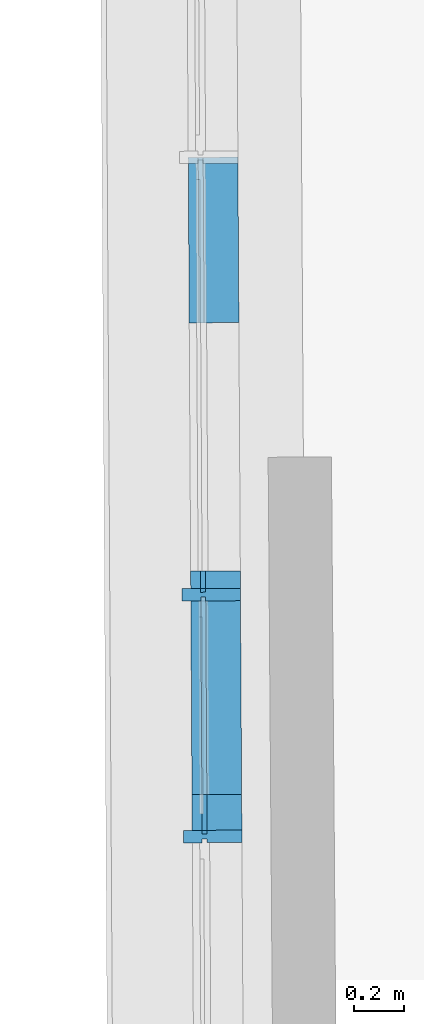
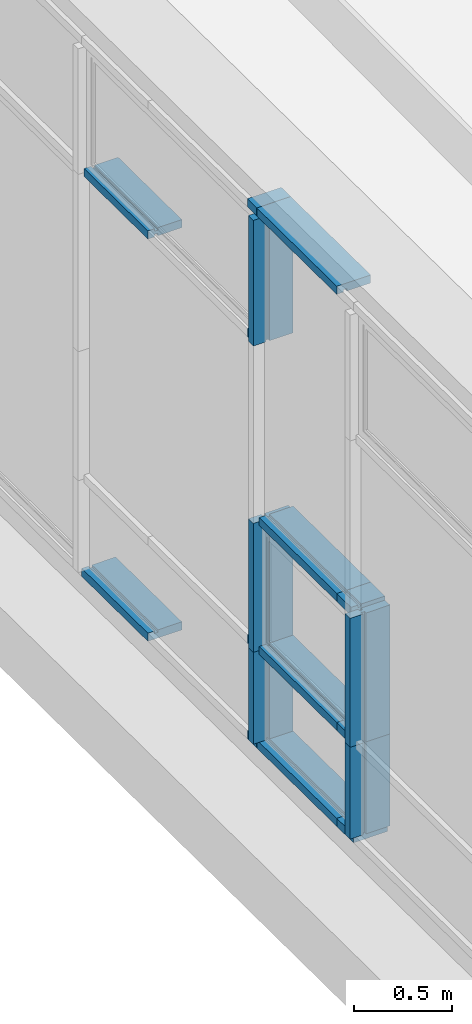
# One storey, part 117 of 158: 18 building element parts, 1 element without a shape of its own.
"""IFC2X3 building model written with IfcOpenShell, lengths in metres."""

from ifc_helpers import new_model, entity, si_unit, converted_unit, derived_unit, money_unit, direction, frame, origin_with_axes, place, context, subcontext, project, spatial, faceted_brep, material, type_object, element, aggregate, save


model = new_model("IFC2X3")

# Units and contexts
model_context = context("Model", 3, precision=1e-05, world=origin_with_axes(), true_north=direction((0.0, 1.0)))
body_context = subcontext(model_context, "Body", "Model", "MODEL_VIEW")
ifc_project = project(units=[si_unit("LENGTHUNIT", "METRE"), si_unit("AREAUNIT", "SQUARE_METRE"), si_unit("VOLUMEUNIT", "CUBIC_METRE"), converted_unit("PLANEANGLEUNIT", "DEGREE", entity("IfcPlaneAngleMeasure", 0.0174532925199), si_unit("PLANEANGLEUNIT", "RADIAN"), dimensions=[0, 0, 0, 0, 0, 0, 0]), money_unit("EUR"), converted_unit("TIMEUNIT", "Year", entity("IfcTimeMeasure", 31556926.0), si_unit("TIMEUNIT", "SECOND"), dimensions=[0, 0, 1, 0, 0, 0, 0]), si_unit("MASSUNIT", "GRAM", prefix="KILO"), si_unit("THERMODYNAMICTEMPERATUREUNIT", "DEGREE_CELSIUS"), si_unit("LUMINOUSINTENSITYUNIT", "LUMEN"), si_unit("ENERGYUNIT", "JOULE", prefix="MEGA"), derived_unit("THERMALCONDUCTANCEUNIT", [(si_unit("POWERUNIT", "WATT"), 1), (si_unit("LENGTHUNIT", "METRE"), -1), (si_unit("THERMODYNAMICTEMPERATUREUNIT", "KELVIN"), -1)]), derived_unit("SPECIFICHEATCAPACITYUNIT", [(si_unit("ENERGYUNIT", "JOULE"), 1), (si_unit("MASSUNIT", "GRAM", prefix="KILO"), -1), (si_unit("THERMODYNAMICTEMPERATUREUNIT", "KELVIN"), -1)]), derived_unit("MASSDENSITYUNIT", [(si_unit("MASSUNIT", "GRAM", prefix="KILO"), 1), (si_unit("VOLUMEUNIT", "CUBIC_METRE"), -1)])], contexts=[model_context])

# Site, building, storey
site_placement = place(None, origin_with_axes())
site = spatial("IfcSite", under=ifc_project, at=site_placement, Name="Gelände", CompositionType="ELEMENT")
building_placement = place(site_placement, origin_with_axes())
building = spatial("IfcBuilding", under=site, at=building_placement, Name="Gebäude", CompositionType="ELEMENT")
storey_placement = place(building_placement, origin_with_axes())
storey = spatial("IfcBuildingStorey", under=building, at=storey_placement, Name="ERDGESCHOSS", CompositionType="ELEMENT", Elevation=0.0)

# Proxy, building element parts
building_element_proxy_type = type_object("IfcBuildingElementProxyType", Name="Fassadentyp", PredefinedType="NOTDEFINED")
proxy_placement = place(storey_placement, frame((-34.8120286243, 34.4012060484, 1.3404389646), z_axis=(0.0, 0.0, 1.0), x_axis=(1.0, 0.0, 0.0)))
proxy = element("IfcBuildingElementProxy", 1, at=proxy_placement, inside=storey, type_object=building_element_proxy_type, Name="Fassade-002")
ifc_material = material(Name="53_Metall, Aluminium")
building_element_part_1_placement = place(proxy_placement, origin_with_axes())
building_element_part_1 = element("IfcBuildingElementPart", 2, at=building_element_part_1_placement, material=ifc_material, Name="53_Metall, Aluminium", context=body_context, shape_type="Brep", body=[
    faceted_brep([(0.000255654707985, 1.66152020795, 2.5100000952), (0.000255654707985, 1.66152020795, 2.4950000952), (0.140253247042, 1.66234126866, 2.4950000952), (0.140253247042, 1.66234126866, 2.5450000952), (0.000255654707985, 1.66152020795, 2.5450000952), (0.000255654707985, 1.66152020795, 2.5300000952), (-0.0197440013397, 1.66140291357, 2.5300000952), (-0.0197440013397, 1.66140291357, 2.5450000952), (-0.0597433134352, 1.66116832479, 2.5450000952), (-0.0597433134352, 1.66116832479, 2.4950000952), (-0.0197440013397, 1.66140291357, 2.4950000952), (-0.0197440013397, 1.66140291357, 2.5100000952), (-0.00350551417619, 2.30283038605, 2.5100000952), (-0.00350551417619, 2.30283038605, 2.4950000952), (0.136492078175, 2.30365144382, 2.4950000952), (0.136492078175, 2.30365144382, 2.5450000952), (-0.00350551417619, 2.30283038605, 2.5450000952), (-0.00350551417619, 2.30283038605, 2.5300000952), (-0.0235051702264, 2.30271309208, 2.5300000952), (-0.0235051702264, 2.30271309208, 2.5450000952), (-0.0635044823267, 2.30247850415, 2.5450000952), (-0.0635044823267, 2.30247850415, 2.4950000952), (-0.0235051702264, 2.30271309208, 2.4950000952), (-0.0235051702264, 2.30271309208, 2.5100000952)], [[[0, 1, 2, 3, 4, 5, 6, 7, 8, 9, 10, 11]], [[1, 0, 12, 13]], [[1, 13, 14, 2]], [[2, 14, 15, 3]], [[4, 3, 15, 16]], [[4, 16, 17, 5]], [[5, 17, 18, 6]], [[7, 6, 18, 19]], [[19, 20, 8, 7]], [[8, 20, 21, 9]], [[22, 10, 9, 21]], [[11, 10, 22, 23]], [[0, 11, 23, 12]], [[23, 22, 21, 20, 19, 18, 17, 16, 15, 14, 13, 12]]]),
])
building_element_part_2_placement = place(proxy_placement, origin_with_axes())
building_element_part_2 = element("IfcBuildingElementPart", 3, at=building_element_part_2_placement, material=ifc_material, Name="53_Metall, Aluminium", context=body_context, shape_type="Brep", body=[
    faceted_brep([(0.00653149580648, 0.591437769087, 0.610000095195), (0.00653149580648, 0.591437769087, 0.595000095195), (0.146529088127, 0.592258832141, 0.595000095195), (0.146529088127, 0.592258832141, 0.645000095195), (0.00653149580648, 0.591437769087, 0.645000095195), (0.00653149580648, 0.591437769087, 0.630000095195), (-0.0134681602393, 0.591320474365, 0.630000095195), (-0.0134681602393, 0.591320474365, 0.645000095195), (-0.0534674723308, 0.591085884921, 0.645000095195), (-0.0534674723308, 0.591085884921, 0.595000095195), (-0.0134681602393, 0.591320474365, 0.595000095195), (-0.0134681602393, 0.591320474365, 0.610000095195), (0.00612037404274, 0.661537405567, 0.610000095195), (0.00612037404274, 0.661537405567, 0.595000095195), (0.146117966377, 0.662358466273, 0.595000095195), (0.146117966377, 0.662358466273, 0.645000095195), (0.00612037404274, 0.661537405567, 0.645000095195), (0.00612037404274, 0.661537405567, 0.630000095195), (-0.013879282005, 0.66142011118, 0.630000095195), (-0.013879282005, 0.66142011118, 0.645000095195), (-0.0538785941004, 0.661185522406, 0.645000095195), (-0.0538785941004, 0.661185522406, 0.595000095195), (-0.013879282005, 0.66142011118, 0.595000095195), (-0.013879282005, 0.66142011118, 0.610000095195)], [[[0, 1, 2, 3, 4, 5, 6, 7, 8, 9, 10, 11]], [[1, 0, 12, 13]], [[1, 13, 14, 2]], [[3, 2, 14, 15]], [[4, 3, 15, 16]], [[4, 16, 17, 5]], [[5, 17, 18, 6]], [[7, 6, 18, 19]], [[19, 20, 8, 7]], [[9, 8, 20, 21]], [[22, 10, 9, 21]], [[11, 10, 22, 23]], [[0, 11, 23, 12]], [[23, 22, 21, 20, 19, 18, 17, 16, 15, 14, 13, 12]]]),
])
building_element_part_3_placement = place(proxy_placement, origin_with_axes())
building_element_part_3 = element("IfcBuildingElementPart", 4, at=building_element_part_3_placement, material=ifc_material, Name="53_Metall, Aluminium", context=body_context, shape_type="Brep", body=[
    faceted_brep([(0.00673676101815, 0.556438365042, 0.620000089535), (0.00682473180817, 0.541438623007, 0.620000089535), (0.146822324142, 0.542259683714, 0.620000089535), (0.146529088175, 0.592258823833, 0.620000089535), (0.00653149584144, 0.591437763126, 0.620000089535), (0.00661946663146, 0.57643802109, 0.620000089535), (-0.0133801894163, 0.576320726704, 0.620000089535), (-0.0134681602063, 0.591320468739, 0.620000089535), (-0.0884668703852, 0.590880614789, 0.620000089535), (-0.0881736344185, 0.54088147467, 0.620000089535), (-0.0131749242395, 0.54132132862, 0.620000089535), (-0.0132628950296, 0.556321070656, 0.620000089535), (0.00673676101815, 0.556438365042, 0.0500000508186), (0.00682473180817, 0.541438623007, 0.0500000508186), (0.146822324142, 0.542259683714, 0.0500000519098), (0.146529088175, 0.592258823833, 0.0500000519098), (0.00653149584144, 0.591437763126, 0.0500000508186), (0.00661946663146, 0.57643802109, 0.0500000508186), (-0.0133801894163, 0.576320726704, 0.0500000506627), (-0.0134681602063, 0.591320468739, 0.0500000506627), (-0.0884668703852, 0.590880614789, 0.0500000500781), (-0.0881736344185, 0.54088147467, 0.0500000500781), (-0.0131749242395, 0.54132132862, 0.0500000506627), (-0.0132628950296, 0.556321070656, 0.0500000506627)], [[[0, 1, 2, 3, 4, 5, 6, 7, 8, 9, 10, 11]], [[1, 0, 12, 13]], [[1, 13, 14, 2]], [[2, 14, 15, 3]], [[4, 3, 15, 16]], [[4, 16, 17, 5]], [[5, 17, 18, 6]], [[7, 6, 18, 19]], [[19, 20, 8, 7]], [[8, 20, 21, 9]], [[22, 10, 9, 21]], [[11, 10, 22, 23]], [[0, 11, 23, 12]], [[23, 22, 21, 20, 19, 18, 17, 16, 15, 14, 13, 12]]]),
])
building_element_part_4_placement = place(proxy_placement, origin_with_axes())
building_element_part_4 = element("IfcBuildingElementPart", 5, at=building_element_part_4_placement, material=ifc_material, Name="53_Metall, Aluminium", context=body_context, shape_type="Brep", body=[
    faceted_brep([(0.000255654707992, 1.66152020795, 0.0350000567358), (-0.0197440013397, 1.66140291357, 0.0350000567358), (-0.0197440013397, 1.66140291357, 0.0500000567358), (-0.0597433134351, 1.66116832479, 0.0500000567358), (-0.0597433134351, 1.66116832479, 5.6735754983e-08), (0.140253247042, 1.66234126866, 5.6735754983e-08), (0.140253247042, 1.66234126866, 0.0500000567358), (0.000255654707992, 1.66152020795, 0.0500000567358), (-0.00365213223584, 2.32782996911, 0.0350000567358), (-0.0236517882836, 2.32771267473, 0.0350000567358), (-0.0236517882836, 2.32771267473, 0.0500000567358), (-0.063651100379, 2.32747808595, 0.0500000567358), (-0.063651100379, 2.32747808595, 5.6735754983e-08), (0.136345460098, 2.32865102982, 5.6735754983e-08), (0.136345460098, 2.32865102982, 0.0500000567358), (-0.00365213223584, 2.32782996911, 0.0500000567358)], [[[0, 1, 2, 3, 4, 5, 6, 7]], [[1, 0, 8, 9]], [[10, 2, 1, 9]], [[2, 10, 11, 3]], [[12, 4, 3, 11]], [[13, 5, 4, 12]], [[14, 6, 5, 13]], [[15, 7, 6, 14]], [[0, 7, 15, 8]], [[8, 15, 14, 13, 12, 11, 10, 9]]]),
])
building_element_part_5_placement = place(proxy_placement, origin_with_axes())
building_element_part_5 = element("IfcBuildingElementPart", 6, at=building_element_part_5_placement, material=ifc_material, Name="53_Metall, Aluminium", context=body_context, shape_type="Brep", body=[
    faceted_brep([(0.0066781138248, 0.566438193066, 0.0350000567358), (-0.0133215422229, 0.56632089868, 0.0350000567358), (-0.0133215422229, 0.56632089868, 0.0500000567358), (-0.0533208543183, 0.566086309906, 0.0500000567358), (-0.0533208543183, 0.566086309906, 5.6735754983e-08), (0.146675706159, 0.567259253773, 5.6735754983e-08), (0.146675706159, 0.567259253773, 0.0500000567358), (0.0066781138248, 0.566438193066, 0.0500000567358), (0.0061203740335, 0.661537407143, 0.0350000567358), (-0.0138792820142, 0.661420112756, 0.0350000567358), (-0.0138792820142, 0.661420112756, 0.0500000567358), (-0.0538785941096, 0.661185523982, 0.0500000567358), (-0.0538785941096, 0.661185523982, 5.6735754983e-08), (0.146117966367, 0.662358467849, 5.6735754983e-08), (0.146117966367, 0.662358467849, 0.0500000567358), (0.0061203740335, 0.661537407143, 0.0500000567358)], [[[0, 1, 2, 3, 4, 5, 6, 7]], [[1, 0, 8, 9]], [[10, 2, 1, 9]], [[2, 10, 11, 3]], [[12, 4, 3, 11]], [[13, 5, 4, 12]], [[14, 6, 5, 13]], [[15, 7, 6, 14]], [[0, 7, 15, 8]], [[8, 15, 14, 13, 12, 11, 10, 9]]]),
])
building_element_part_6_placement = place(proxy_placement, origin_with_axes())
building_element_part_6 = element("IfcBuildingElementPart", 7, at=building_element_part_6_placement, material=ifc_material, Name="53_Metall, Aluminium", context=body_context, shape_type="Brep", body=[
    faceted_brep([(0.00653149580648, 0.591437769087, 2.5100000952), (0.00653149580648, 0.591437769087, 2.4950000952), (0.146529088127, 0.592258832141, 2.4950000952), (0.146529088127, 0.592258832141, 2.5450000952), (0.00653149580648, 0.591437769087, 2.5450000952), (0.00653149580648, 0.591437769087, 2.5300000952), (-0.0134681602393, 0.591320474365, 2.5300000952), (-0.0134681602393, 0.591320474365, 2.5450000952), (-0.0534674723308, 0.591085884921, 2.5450000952), (-0.0534674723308, 0.591085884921, 2.4950000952), (-0.0134681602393, 0.591320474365, 2.4950000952), (-0.0134681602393, 0.591320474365, 2.5100000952), (0.00612037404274, 0.661537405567, 2.5100000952), (0.00612037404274, 0.661537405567, 2.4950000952), (0.146117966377, 0.662358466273, 2.4950000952), (0.146117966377, 0.662358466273, 2.5450000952), (0.00612037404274, 0.661537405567, 2.5450000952), (0.00612037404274, 0.661537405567, 2.5300000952), (-0.013879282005, 0.66142011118, 2.5300000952), (-0.013879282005, 0.66142011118, 2.5450000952), (-0.0538785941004, 0.661185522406, 2.5450000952), (-0.0538785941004, 0.661185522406, 2.4950000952), (-0.013879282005, 0.66142011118, 2.4950000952), (-0.013879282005, 0.66142011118, 2.5100000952)], [[[0, 1, 2, 3, 4, 5, 6, 7, 8, 9, 10, 11]], [[1, 0, 12, 13]], [[1, 13, 14, 2]], [[3, 2, 14, 15]], [[4, 3, 15, 16]], [[4, 16, 17, 5]], [[5, 17, 18, 6]], [[7, 6, 18, 19]], [[19, 20, 8, 7]], [[9, 8, 20, 21]], [[22, 10, 9, 21]], [[11, 10, 22, 23]], [[0, 11, 23, 12]], [[23, 22, 21, 20, 19, 18, 17, 16, 15, 14, 13, 12]]]),
])
building_element_part_7_placement = place(proxy_placement, origin_with_axes())
building_element_part_7 = element("IfcBuildingElementPart", 8, at=building_element_part_7_placement, material=ifc_material, Name="53_Metall, Aluminium", context=body_context, shape_type="Brep", body=[
    faceted_brep([(0.00673676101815, 0.556438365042, 3.29999996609), (0.00682473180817, 0.541438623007, 3.29999996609), (0.146822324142, 0.542259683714, 3.29999996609), (0.146529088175, 0.592258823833, 3.29999996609), (0.00653149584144, 0.591437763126, 3.29999996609), (0.00661946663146, 0.57643802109, 3.29999996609), (-0.0133801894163, 0.576320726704, 3.29999996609), (-0.0134681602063, 0.591320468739, 3.29999996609), (-0.0884668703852, 0.590880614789, 3.29999996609), (-0.0881736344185, 0.54088147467, 3.29999996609), (-0.0131749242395, 0.54132132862, 3.29999996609), (-0.0132628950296, 0.556321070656, 3.29999996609), (0.00673676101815, 0.556438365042, 2.52000009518), (0.00682473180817, 0.541438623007, 2.52000009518), (0.146822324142, 0.542259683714, 2.52000009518), (0.146529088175, 0.592258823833, 2.52000009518), (0.00653149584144, 0.591437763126, 2.52000009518), (0.00661946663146, 0.57643802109, 2.52000009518), (-0.0133801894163, 0.576320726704, 2.52000009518), (-0.0134681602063, 0.591320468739, 2.52000009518), (-0.0884668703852, 0.590880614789, 2.52000009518), (-0.0881736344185, 0.54088147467, 2.52000009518), (-0.0131749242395, 0.54132132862, 2.52000009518), (-0.0132628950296, 0.556321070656, 2.52000009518)], [[[0, 1, 2, 3, 4, 5, 6, 7, 8, 9, 10, 11]], [[1, 0, 12, 13]], [[1, 13, 14, 2]], [[3, 2, 14, 15]], [[4, 3, 15, 16]], [[4, 16, 17, 5]], [[5, 17, 18, 6]], [[7, 6, 18, 19]], [[19, 20, 8, 7]], [[9, 8, 20, 21]], [[22, 10, 9, 21]], [[11, 10, 22, 23]], [[0, 11, 23, 12]], [[23, 22, 21, 20, 19, 18, 17, 16, 15, 14, 13, 12]]]),
])
building_element_part_8_placement = place(proxy_placement, origin_with_axes())
building_element_part_8 = element("IfcBuildingElementPart", 9, at=building_element_part_8_placement, material=ifc_material, Name="53_Metall, Aluminium", context=body_context, shape_type="Brep", body=[
    faceted_brep([(0.0066781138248, 0.566438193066, 3.31499999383), (0.0066781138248, 0.566438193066, 3.29999999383), (0.146675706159, 0.567259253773, 3.29999999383), (0.146675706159, 0.567259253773, 3.34999999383), (-0.0533208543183, 0.566086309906, 3.34999999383), (-0.0533208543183, 0.566086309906, 3.29999999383), (-0.0133215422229, 0.56632089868, 3.29999999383), (-0.0133215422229, 0.56632089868, 3.31499999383), (0.00612037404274, 0.661537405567, 3.31499999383), (0.00612037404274, 0.661537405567, 3.29999999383), (0.146117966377, 0.662358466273, 3.29999999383), (0.146117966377, 0.662358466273, 3.34999999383), (-0.0538785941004, 0.661185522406, 3.34999999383), (-0.0538785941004, 0.661185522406, 3.29999999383), (-0.013879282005, 0.66142011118, 3.29999999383), (-0.013879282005, 0.66142011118, 3.31499999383)], [[[0, 1, 2, 3, 4, 5, 6, 7]], [[0, 8, 9, 1]], [[9, 10, 2, 1]], [[10, 11, 3, 2]], [[11, 12, 4, 3]], [[12, 13, 5, 4]], [[6, 5, 13, 14]], [[14, 15, 7, 6]], [[7, 15, 8, 0]], [[8, 15, 14, 13, 12, 11, 10, 9]]]),
])
building_element_part_9_placement = place(proxy_placement, origin_with_axes())
building_element_part_9 = element("IfcBuildingElementPart", 10, at=building_element_part_9_placement, material=ifc_material, Name="53_Metall, Aluminium", context=body_context, shape_type="Brep", body=[
    faceted_brep([(0.0122423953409, -0.382317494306, 1.4100000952), (0.0122423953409, -0.382317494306, 1.3950000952), (0.152239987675, -0.381496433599, 1.3950000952), (0.152239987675, -0.381496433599, 1.4450000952), (0.0122423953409, -0.382317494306, 1.4450000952), (0.0122423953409, -0.382317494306, 1.4300000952), (-0.00775726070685, -0.382434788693, 1.4300000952), (-0.00775726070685, -0.382434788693, 1.4450000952), (-0.0477565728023, -0.382669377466, 1.4450000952), (-0.0477565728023, -0.382669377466, 1.3950000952), (-0.00775726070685, -0.382434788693, 1.3950000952), (-0.00775726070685, -0.382434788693, 1.4100000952), (0.011398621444, -0.238447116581, 1.4100000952), (0.011398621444, -0.238447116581, 1.3950000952), (0.151396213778, -0.237626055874, 1.3950000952), (0.151396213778, -0.237626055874, 1.4450000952), (0.011398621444, -0.238447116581, 1.4450000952), (0.011398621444, -0.238447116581, 1.4300000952), (-0.0086010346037, -0.238564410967, 1.4300000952), (-0.0086010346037, -0.238564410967, 1.4450000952), (-0.0486003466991, -0.238798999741, 1.4450000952), (-0.0486003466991, -0.238798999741, 1.3950000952), (-0.0086010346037, -0.238564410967, 1.3950000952), (-0.0086010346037, -0.238564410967, 1.4100000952)], [[[0, 1, 2, 3, 4, 5, 6, 7, 8, 9, 10, 11]], [[1, 0, 12, 13]], [[1, 13, 14, 2]], [[3, 2, 14, 15]], [[4, 3, 15, 16]], [[4, 16, 17, 5]], [[5, 17, 18, 6]], [[7, 6, 18, 19]], [[19, 20, 8, 7]], [[9, 8, 20, 21]], [[22, 10, 9, 21]], [[11, 10, 22, 23]], [[0, 11, 23, 12]], [[23, 22, 21, 20, 19, 18, 17, 16, 15, 14, 13, 12]]]),
])
building_element_part_10_placement = place(proxy_placement, origin_with_axes())
building_element_part_10 = element("IfcBuildingElementPart", 11, at=building_element_part_10_placement, material=ifc_material, Name="53_Metall, Aluminium", context=body_context, shape_type="Brep", body=[
    faceted_brep([(0.011398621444, -0.238447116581, 3.31499999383), (0.011398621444, -0.238447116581, 3.29999999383), (0.151396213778, -0.237626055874, 3.29999999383), (0.151396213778, -0.237626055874, 3.34999999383), (-0.0486003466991, -0.238798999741, 3.34999999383), (-0.0486003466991, -0.238798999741, 3.29999999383), (-0.00860103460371, -0.238564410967, 3.29999999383), (-0.00860103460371, -0.238564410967, 3.31499999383), (0.0066781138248, 0.566438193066, 3.31499999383), (0.0066781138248, 0.566438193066, 3.29999999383), (0.146675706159, 0.567259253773, 3.29999999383), (0.146675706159, 0.567259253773, 3.34999999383), (-0.0533208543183, 0.566086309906, 3.34999999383), (-0.0533208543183, 0.566086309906, 3.29999999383), (-0.0133215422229, 0.56632089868, 3.29999999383), (-0.0133215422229, 0.56632089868, 3.31499999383)], [[[0, 1, 2, 3, 4, 5, 6, 7]], [[0, 8, 9, 1]], [[9, 10, 2, 1]], [[10, 11, 3, 2]], [[11, 12, 4, 3]], [[12, 13, 5, 4]], [[6, 5, 13, 14]], [[14, 15, 7, 6]], [[7, 15, 8, 0]], [[8, 15, 14, 13, 12, 11, 10, 9]]]),
])
building_element_part_11_placement = place(proxy_placement, origin_with_axes())
building_element_part_11 = element("IfcBuildingElementPart", 12, at=building_element_part_11_placement, material=ifc_material, Name="53_Metall, Aluminium", context=body_context, shape_type="Brep", body=[
    faceted_brep([(0.00673676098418, 0.556438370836, 1.42000009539), (0.0068247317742, 0.5414386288, 1.42000009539), (0.146822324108, 0.542259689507, 1.42000009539), (0.146529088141, 0.592258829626, 1.42000009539), (0.00653149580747, 0.591437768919, 1.42000009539), (0.00661946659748, 0.576438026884, 1.42000009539), (-0.0133801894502, 0.576320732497, 1.42000009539), (-0.0134681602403, 0.591320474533, 1.42000009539), (-0.0884668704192, 0.590880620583, 1.42000009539), (-0.0881736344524, 0.540881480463, 1.42000009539), (-0.0131749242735, 0.541321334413, 1.42000009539), (-0.0132628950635, 0.556321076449, 1.42000009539), (0.00673676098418, 0.556438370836, 0.620000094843), (0.0068247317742, 0.5414386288, 0.620000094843), (0.146822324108, 0.542259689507, 0.620000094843), (0.146529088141, 0.592258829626, 0.620000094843), (0.00653149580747, 0.591437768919, 0.620000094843), (0.00661946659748, 0.576438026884, 0.620000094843), (-0.0133801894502, 0.576320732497, 0.620000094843), (-0.0134681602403, 0.591320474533, 0.620000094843), (-0.0884668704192, 0.590880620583, 0.620000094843), (-0.0881736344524, 0.540881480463, 0.620000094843), (-0.0131749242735, 0.541321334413, 0.620000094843), (-0.0132628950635, 0.556321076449, 0.620000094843)], [[[0, 1, 2, 3, 4, 5, 6, 7, 8, 9, 10, 11]], [[1, 0, 12, 13]], [[1, 13, 14, 2]], [[3, 2, 14, 15]], [[4, 3, 15, 16]], [[4, 16, 17, 5]], [[5, 17, 18, 6]], [[7, 6, 18, 19]], [[19, 20, 8, 7]], [[9, 8, 20, 21]], [[22, 10, 9, 21]], [[11, 10, 22, 23]], [[0, 11, 23, 12]], [[23, 22, 21, 20, 19, 18, 17, 16, 15, 14, 13, 12]]]),
])
building_element_part_12_placement = place(proxy_placement, origin_with_axes())
building_element_part_12 = element("IfcBuildingElementPart", 13, at=building_element_part_12_placement, material=ifc_material, Name="53_Metall, Aluminium", context=body_context, shape_type="Brep", body=[
    faceted_brep([(0.0123890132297, -0.407317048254, 0.035), (-0.00761064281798, -0.407434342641, 0.035), (-0.00761064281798, -0.407434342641, 0.05), (-0.0476099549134, -0.407668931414, 0.05), (-0.0476099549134, -0.407668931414, 0.0), (0.152386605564, -0.406495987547, 0.0), (0.152386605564, -0.406495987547, 0.05), (0.0123890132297, -0.407317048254, 0.05), (0.0113986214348, -0.238447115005, 0.035), (-0.00860103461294, -0.238564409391, 0.035), (-0.00860103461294, -0.238564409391, 0.05), (-0.0486003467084, -0.238798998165, 0.05), (-0.0486003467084, -0.238798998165, 0.0), (0.151396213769, -0.237626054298, 0.0), (0.151396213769, -0.237626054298, 0.05), (0.0113986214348, -0.238447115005, 0.05)], [[[0, 1, 2, 3, 4, 5, 6, 7]], [[1, 0, 8, 9]], [[10, 2, 1, 9]], [[2, 10, 11, 3]], [[12, 4, 3, 11]], [[13, 5, 4, 12]], [[14, 6, 5, 13]], [[15, 7, 6, 14]], [[0, 7, 15, 8]], [[8, 15, 14, 13, 12, 11, 10, 9]]]),
])
building_element_part_13_placement = place(proxy_placement, origin_with_axes())
building_element_part_13 = element("IfcBuildingElementPart", 14, at=building_element_part_13_placement, material=ifc_material, Name="53_Metall, Aluminium", context=body_context, shape_type="Brep", body=[
    faceted_brep([(0.0124476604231, -0.417316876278, 0.620000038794), (0.0125356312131, -0.432316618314, 0.620000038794), (0.152533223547, -0.431495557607, 0.620000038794), (0.15223998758, -0.381496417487, 0.620000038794), (0.0122423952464, -0.382317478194, 0.620000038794), (0.0123303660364, -0.39731722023, 0.620000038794), (-0.00766929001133, -0.397434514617, 0.620000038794), (-0.00775726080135, -0.382434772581, 0.620000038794), (-0.0827559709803, -0.382874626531, 0.620000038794), (-0.0824627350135, -0.43287376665, 0.620000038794), (-0.00746402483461, -0.4324339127, 0.620000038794), (-0.00755199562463, -0.417434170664, 0.620000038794), (0.0124476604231, -0.417316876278, 0.0500000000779), (0.0125356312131, -0.432316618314, 0.0500000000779), (0.152533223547, -0.431495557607, 0.0500000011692), (0.15223998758, -0.381496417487, 0.0500000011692), (0.0122423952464, -0.382317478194, 0.0500000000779), (0.0123303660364, -0.39731722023, 0.0500000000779), (-0.00766929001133, -0.397434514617, 0.0499999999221), (-0.00775726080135, -0.382434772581, 0.0499999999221), (-0.0827559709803, -0.382874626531, 0.0499999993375), (-0.0824627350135, -0.43287376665, 0.0499999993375), (-0.00746402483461, -0.4324339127, 0.0499999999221), (-0.00755199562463, -0.417434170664, 0.0499999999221)], [[[0, 1, 2, 3, 4, 5, 6, 7, 8, 9, 10, 11]], [[1, 0, 12, 13]], [[1, 13, 14, 2]], [[2, 14, 15, 3]], [[4, 3, 15, 16]], [[4, 16, 17, 5]], [[5, 17, 18, 6]], [[7, 6, 18, 19]], [[19, 20, 8, 7]], [[8, 20, 21, 9]], [[22, 10, 9, 21]], [[11, 10, 22, 23]], [[0, 11, 23, 12]], [[23, 22, 21, 20, 19, 18, 17, 16, 15, 14, 13, 12]]]),
])
building_element_part_14_placement = place(proxy_placement, origin_with_axes())
building_element_part_14 = element("IfcBuildingElementPart", 15, at=building_element_part_14_placement, material=ifc_material, Name="53_Metall, Aluminium", context=body_context, shape_type="Brep", body=[
    faceted_brep([(0.0122423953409, -0.382317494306, 0.610000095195), (0.0122423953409, -0.382317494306, 0.595000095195), (0.152239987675, -0.381496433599, 0.595000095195), (0.152239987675, -0.381496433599, 0.645000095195), (0.0122423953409, -0.382317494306, 0.645000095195), (0.0122423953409, -0.382317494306, 0.630000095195), (-0.00775726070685, -0.382434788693, 0.630000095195), (-0.00775726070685, -0.382434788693, 0.645000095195), (-0.0477565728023, -0.382669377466, 0.645000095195), (-0.0477565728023, -0.382669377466, 0.595000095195), (-0.00775726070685, -0.382434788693, 0.595000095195), (-0.00775726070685, -0.382434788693, 0.610000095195), (0.011398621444, -0.238447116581, 0.610000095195), (0.011398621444, -0.238447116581, 0.595000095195), (0.151396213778, -0.237626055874, 0.595000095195), (0.151396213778, -0.237626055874, 0.645000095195), (0.011398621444, -0.238447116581, 0.645000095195), (0.011398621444, -0.238447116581, 0.630000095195), (-0.0086010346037, -0.238564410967, 0.630000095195), (-0.0086010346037, -0.238564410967, 0.645000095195), (-0.0486003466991, -0.238798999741, 0.645000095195), (-0.0486003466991, -0.238798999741, 0.595000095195), (-0.0086010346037, -0.238564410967, 0.595000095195), (-0.0086010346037, -0.238564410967, 0.610000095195)], [[[0, 1, 2, 3, 4, 5, 6, 7, 8, 9, 10, 11]], [[1, 0, 12, 13]], [[1, 13, 14, 2]], [[3, 2, 14, 15]], [[4, 3, 15, 16]], [[4, 16, 17, 5]], [[5, 17, 18, 6]], [[7, 6, 18, 19]], [[19, 20, 8, 7]], [[9, 8, 20, 21]], [[22, 10, 9, 21]], [[11, 10, 22, 23]], [[0, 11, 23, 12]], [[23, 22, 21, 20, 19, 18, 17, 16, 15, 14, 13, 12]]]),
])
building_element_part_15_placement = place(proxy_placement, origin_with_axes())
building_element_part_15 = element("IfcBuildingElementPart", 16, at=building_element_part_15_placement, material=ifc_material, Name="53_Metall, Aluminium", context=body_context, shape_type="Brep", body=[
    faceted_brep([(0.0124476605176, -0.41731689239, 1.42000009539), (0.0125356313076, -0.432316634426, 1.42000009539), (0.152533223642, -0.431495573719, 1.42000009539), (0.152239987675, -0.381496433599, 1.42000009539), (0.0122423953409, -0.382317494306, 1.42000009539), (0.0123303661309, -0.397317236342, 1.42000009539), (-0.00766928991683, -0.397434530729, 1.42000009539), (-0.00775726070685, -0.382434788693, 1.42000009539), (-0.0827559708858, -0.382874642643, 1.42000009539), (-0.082462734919, -0.432873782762, 1.42000009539), (-0.00746402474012, -0.432433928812, 1.42000009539), (-0.00755199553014, -0.417434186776, 1.42000009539), (0.0124476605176, -0.41731689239, 0.620000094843), (0.0125356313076, -0.432316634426, 0.620000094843), (0.152533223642, -0.431495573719, 0.620000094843), (0.152239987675, -0.381496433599, 0.620000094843), (0.0122423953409, -0.382317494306, 0.620000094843), (0.0123303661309, -0.397317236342, 0.620000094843), (-0.00766928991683, -0.397434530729, 0.620000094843), (-0.00775726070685, -0.382434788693, 0.620000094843), (-0.0827559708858, -0.382874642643, 0.620000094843), (-0.082462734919, -0.432873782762, 0.620000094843), (-0.00746402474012, -0.432433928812, 0.620000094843), (-0.00755199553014, -0.417434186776, 0.620000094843)], [[[0, 1, 2, 3, 4, 5, 6, 7, 8, 9, 10, 11]], [[1, 0, 12, 13]], [[1, 13, 14, 2]], [[3, 2, 14, 15]], [[4, 3, 15, 16]], [[4, 16, 17, 5]], [[5, 17, 18, 6]], [[7, 6, 18, 19]], [[19, 20, 8, 7]], [[9, 8, 20, 21]], [[22, 10, 9, 21]], [[11, 10, 22, 23]], [[0, 11, 23, 12]], [[23, 22, 21, 20, 19, 18, 17, 16, 15, 14, 13, 12]]]),
])
building_element_part_16_placement = place(proxy_placement, origin_with_axes())
building_element_part_16 = element("IfcBuildingElementPart", 17, at=building_element_part_16_placement, material=ifc_material, Name="53_Metall, Aluminium", context=body_context, shape_type="Brep", body=[
    faceted_brep([(0.0113986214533, -0.238447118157, 0.0350000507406), (-0.00860103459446, -0.238564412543, 0.0350000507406), (-0.00860103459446, -0.238564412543, 0.0500000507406), (-0.0486003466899, -0.238799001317, 0.0500000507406), (-0.0486003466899, -0.238799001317, 5.07406232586e-08), (0.151396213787, -0.23762605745, 5.07406232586e-08), (0.151396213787, -0.23762605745, 0.0500000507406), (0.0113986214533, -0.238447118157, 0.0500000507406), (0.0066781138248, 0.566438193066, 0.0350000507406), (-0.0133215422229, 0.56632089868, 0.0350000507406), (-0.0133215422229, 0.56632089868, 0.0500000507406), (-0.0533208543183, 0.566086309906, 0.0500000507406), (-0.0533208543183, 0.566086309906, 5.07406232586e-08), (0.146675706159, 0.567259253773, 5.07406232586e-08), (0.146675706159, 0.567259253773, 0.0500000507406), (0.0066781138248, 0.566438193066, 0.0500000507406)], [[[0, 1, 2, 3, 4, 5, 6, 7]], [[1, 0, 8, 9]], [[10, 2, 1, 9]], [[2, 10, 11, 3]], [[12, 4, 3, 11]], [[13, 5, 4, 12]], [[14, 6, 5, 13]], [[15, 7, 6, 14]], [[0, 7, 15, 8]], [[8, 15, 14, 13, 12, 11, 10, 9]]]),
])
building_element_part_17_placement = place(proxy_placement, origin_with_axes())
building_element_part_17 = element("IfcBuildingElementPart", 18, at=building_element_part_17_placement, material=ifc_material, Name="53_Metall, Aluminium", context=body_context, shape_type="Brep", body=[
    faceted_brep([(0.011398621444, -0.238447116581, 0.610000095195), (0.011398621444, -0.238447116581, 0.595000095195), (0.151396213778, -0.237626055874, 0.595000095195), (0.151396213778, -0.237626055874, 0.645000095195), (0.011398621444, -0.238447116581, 0.645000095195), (0.011398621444, -0.238447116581, 0.630000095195), (-0.0086010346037, -0.238564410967, 0.630000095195), (-0.0086010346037, -0.238564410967, 0.645000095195), (-0.0486003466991, -0.238798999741, 0.645000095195), (-0.0486003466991, -0.238798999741, 0.595000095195), (-0.0086010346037, -0.238564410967, 0.595000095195), (-0.0086010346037, -0.238564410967, 0.610000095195), (0.00682473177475, 0.541438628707, 0.610000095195), (0.00682473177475, 0.541438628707, 0.595000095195), (0.146822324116, 0.542259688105, 0.595000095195), (0.146822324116, 0.542259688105, 0.645000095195), (0.00682473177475, 0.541438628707, 0.645000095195), (0.00682473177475, 0.541438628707, 0.630000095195), (-0.0131749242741, 0.541321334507, 0.630000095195), (-0.0131749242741, 0.541321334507, 0.645000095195), (-0.0531742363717, 0.541086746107, 0.645000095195), (-0.0531742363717, 0.541086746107, 0.595000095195), (-0.0131749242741, 0.541321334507, 0.595000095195), (-0.0131749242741, 0.541321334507, 0.610000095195)], [[[0, 1, 2, 3, 4, 5, 6, 7, 8, 9, 10, 11]], [[1, 0, 12, 13]], [[1, 13, 14, 2]], [[2, 14, 15, 3]], [[4, 3, 15, 16]], [[4, 16, 17, 5]], [[5, 17, 18, 6]], [[7, 6, 18, 19]], [[19, 20, 8, 7]], [[8, 20, 21, 9]], [[22, 10, 9, 21]], [[11, 10, 22, 23]], [[0, 11, 23, 12]], [[23, 22, 21, 20, 19, 18, 17, 16, 15, 14, 13, 12]]]),
])
building_element_part_18_placement = place(proxy_placement, origin_with_axes())
building_element_part_18 = element("IfcBuildingElementPart", 19, at=building_element_part_18_placement, material=ifc_material, Name="53_Metall, Aluminium", context=body_context, shape_type="Brep", body=[
    faceted_brep([(0.0113986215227, -0.238447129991, 1.4100000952), (0.0113986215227, -0.238447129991, 1.3950000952), (0.151396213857, -0.237626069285, 1.3950000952), (0.151396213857, -0.237626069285, 1.4450000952), (0.0113986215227, -0.238447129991, 1.4450000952), (0.0113986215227, -0.238447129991, 1.4300000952), (-0.00860103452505, -0.238564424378, 1.4300000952), (-0.00860103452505, -0.238564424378, 1.4450000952), (-0.0486003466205, -0.238799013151, 1.4450000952), (-0.0486003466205, -0.238799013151, 1.3950000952), (-0.00860103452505, -0.238564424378, 1.3950000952), (-0.00860103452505, -0.238564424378, 1.4100000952), (0.0068247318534, 0.541438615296, 1.4100000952), (0.0068247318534, 0.541438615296, 1.3950000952), (0.146822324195, 0.542259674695, 1.3950000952), (0.146822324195, 0.542259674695, 1.4450000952), (0.0068247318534, 0.541438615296, 1.4450000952), (0.0068247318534, 0.541438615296, 1.4300000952), (-0.0131749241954, 0.541321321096, 1.4300000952), (-0.0131749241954, 0.541321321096, 1.4450000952), (-0.053174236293, 0.541086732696, 1.4450000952), (-0.053174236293, 0.541086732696, 1.3950000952), (-0.0131749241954, 0.541321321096, 1.3950000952), (-0.0131749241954, 0.541321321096, 1.4100000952)], [[[0, 1, 2, 3, 4, 5, 6, 7, 8, 9, 10, 11]], [[1, 0, 12, 13]], [[1, 13, 14, 2]], [[2, 14, 15, 3]], [[4, 3, 15, 16]], [[4, 16, 17, 5]], [[5, 17, 18, 6]], [[7, 6, 18, 19]], [[19, 20, 8, 7]], [[8, 20, 21, 9]], [[22, 10, 9, 21]], [[11, 10, 22, 23]], [[0, 11, 23, 12]], [[23, 22, 21, 20, 19, 18, 17, 16, 15, 14, 13, 12]]]),
])
aggregate(proxy, [building_element_part_1, building_element_part_2, building_element_part_3, building_element_part_4, building_element_part_5, building_element_part_6, building_element_part_7, building_element_part_8, building_element_part_9, building_element_part_10, building_element_part_11, building_element_part_12, building_element_part_13, building_element_part_14, building_element_part_15, building_element_part_16, building_element_part_17, building_element_part_18])

save(model, "model.ifc")
